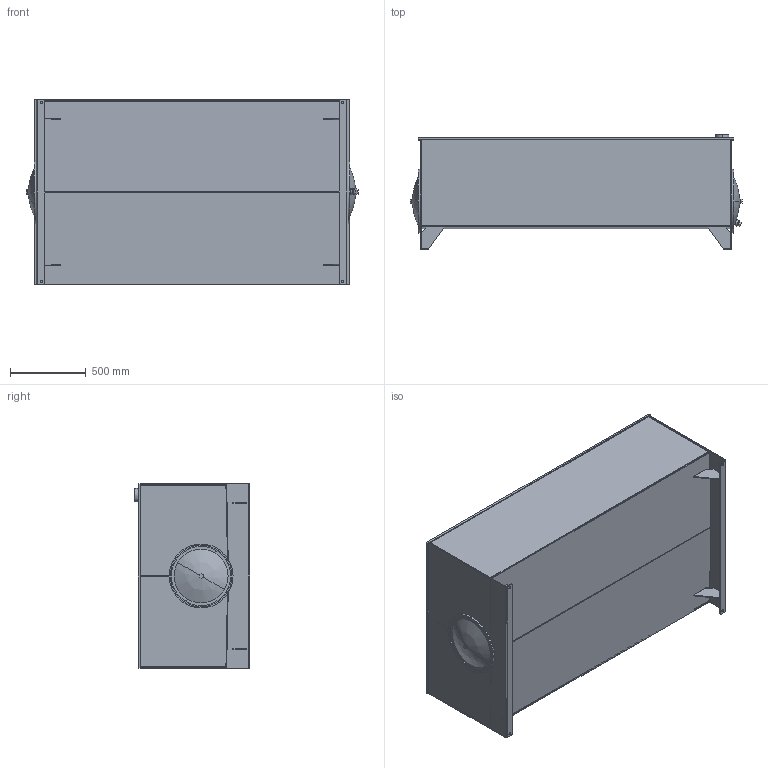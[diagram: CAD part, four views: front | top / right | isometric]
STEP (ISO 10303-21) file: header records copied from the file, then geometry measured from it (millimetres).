
FILE_DESCRIPTION (( 'STEP AP214' ), '1' );
FILE_NAME ('T2-300.STEP', '2019-04-26T17:57:01', ( '' ), ( '' ), 'SwSTEP 2.0', 'SolidWorks 2013', '' );
FILE_SCHEMA (( 'AUTOMOTIVE_DESIGN' ));
Length unit declared in the file: inch
Products named in the file (18): T2-300-LD; T2-300; TL-EC-16; 16.00 END COVER; TL-ECD-16; DRAIN; 16.00 END COVER WITH DRAIN; 0.625 - 11 BAFFLE NUT; 0.625 - 11 HEX BOLT; CRUSH WASHER; 16.00 GASKET; FILLER RISER; T2-300-GST; T2-300-BFL; T2-300-BDYB; T2-300-BDYA; T2-300-EB; T2-300-EA
Assembly tree (24 placements, depth 3):
  T2-300
    T2-300-LD
    T2-300-EA
    T2-300-EB
    T2-300-BDYA
    T2-300-BDYB
    T2-300-BFL
    T2-300-GST  x4
    FILLER RISER
    TL-ECD-16
      16.00 GASKET
      CRUSH WASHER
      0.625 - 11 HEX BOLT
      0.625 - 11 BAFFLE NUT
      16.00 END COVER WITH DRAIN
      DRAIN
    TL-EC-16
      16.00 END COVER
      16.00 GASKET
      CRUSH WASHER
      0.625 - 11 HEX BOLT
      0.625 - 11 BAFFLE NUT
Bounding box: 2192.01 x 762 x 1219.2 mm (x, y, z)
Volume: 73236318.8 mm3; surface area: 21513898.4 mm2
Topology: 23 solids, 23 shells, 292 faces, 672 edges, 434 vertices
Faces by surface type: plane 165, cylinder 107, cone 10, bspline 8, torus 2
Entity records: 8559 total; most frequent: CARTESIAN_POINT 1464, DIRECTION 1232, ORIENTED_EDGE 1068, EDGE_CURVE 534, AXIS2_PLACEMENT_3D 460, VERTEX_POINT 342, VECTOR 312, LINE 312
